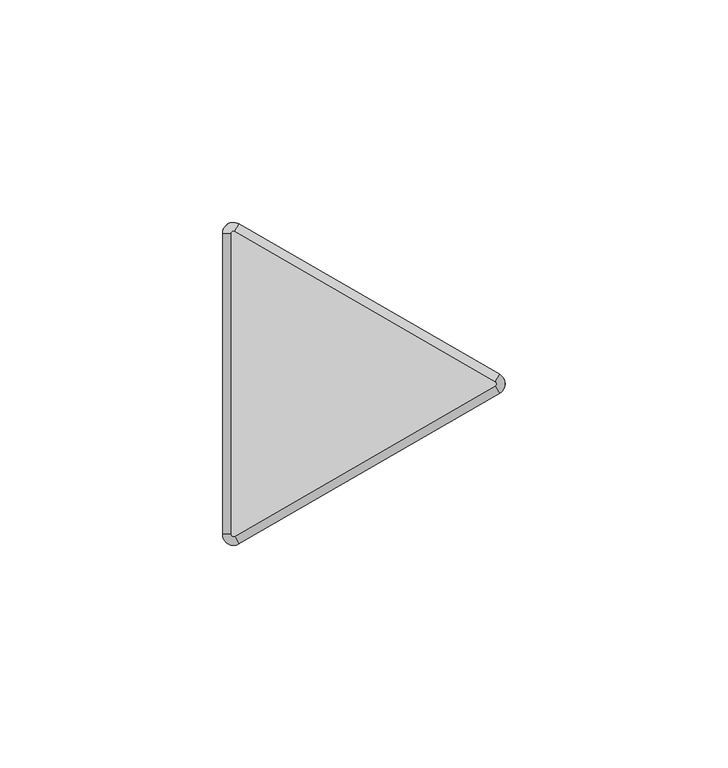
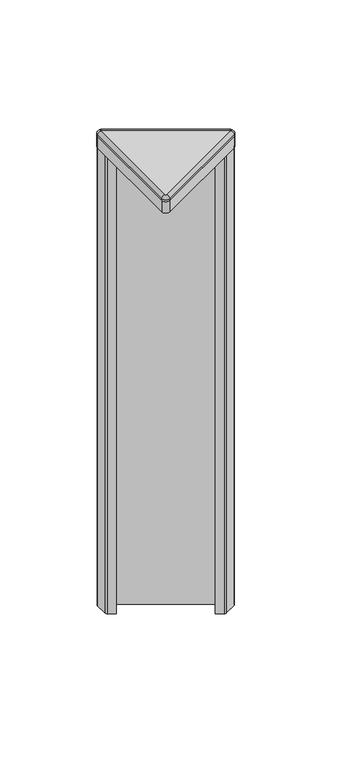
"""IFC4 building model written with IfcOpenShell, lengths in millimetres: furniture geometry, Steelcase - Answer Solution - Panel - 120deg Change-of-Height Trim - Thin : V Corner - 12H for 48H App."""

from ifc_helpers import new_model, si_unit, point, frame, frame_2d, origin, place, context, project, spatial, polyline, circle_curve, ellipse_curve, trimmed, segment, composite_curve, outline, extrude, source, transform, mapped, element, save
from ifc_brep_helpers import plane_surface, cylinder_surface, revolved_surface, advanced_brep


def furniture_720b09e9(model_context):
    return source(origin(), model_context, "Body", "SolidModel", [
        advanced_brep(
        [(-10.518645, -37.3335529, 1223.6628978), (-14.2052101, -35.2051135, 1223.6628978), (-14.2052101, -35.2051135, 1222.7164663), (-10.518645, -37.3335529, 1222.7164663), (-11.46175, -35.7000471, 1225.55), (-12.319, -35.2051135, 1225.55), (-11.46175, -35.7000471, 1222.7164663), (-12.319, -35.2051135, 1222.7164663), (48.0429908, -3.5229767, 1222.7164663), (48.0429908, -3.5229767, 1223.6628978), (47.0998858, -1.8894709, 1225.55), (47.0998858, -1.8894709, 1222.7164663), (48.0429908, 0.733902, 1223.6628978), (48.0429908, 0.733902, 1222.7164663), (47.0998858, -0.8996038, 1225.55), (47.0998858, -0.8996038, 1222.7164663), (-10.518645, 34.5444782, 1222.7164663), (-14.2052101, 32.4160388, 1222.7164663), (-11.46175, 32.9109723, 1222.7164663), (-12.319, 32.4160388, 1222.7164663), (-10.518645, 34.5444782, 1223.6628978), (-11.46175, 32.9109723, 1225.55), (-14.2052101, 32.4160388, 1223.6628978), (-12.319, 32.4160388, 1225.55)],
        [
            (0, 1, circle_curve(frame((-11.7475, -35.2051135, 1223.6628978), z_axis=(0.0, 0.0, -1.0), x_axis=(-1.0, 0.0, 0.0)), 2.4577101)),
            (1, 2),
            (2, 3, circle_curve(frame((-11.7475, -35.2051135, 1222.7164663), z_axis=(0.0, 0.0, 1.0), x_axis=(-1.0, 0.0, 0.0)), 2.4577101)),
            (3, 0),
            (4, 5, circle_curve(frame((-11.7475, -35.2051135, 1225.55), z_axis=(0.0, 0.0, -1.0), x_axis=(-1.0, 0.0, 0.0)), 0.5715)),
            (5, 1, circle_curve(frame((-12.3181076, -35.2051135, 1223.6628978), z_axis=(0.0, -1.0, 0.0), x_axis=(1.0, 0.0, 0.0)), 1.8871024)),
            (0, 4, circle_curve(frame((-11.4621962, -35.6992743, 1223.6628978), z_axis=(-0.8660254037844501, -0.49999999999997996, 0.0), x_axis=(-0.49999999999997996, 0.8660254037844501, 0.0)), 1.8871024)),
            (6, 7, circle_curve(frame((-11.7475, -35.2051135, 1222.7164663), z_axis=(0.0, 0.0, -1.0), x_axis=(-1.0, 0.0, 0.0)), 0.5715)),
            (7, 5),
            (4, 6),
            (3, 8),
            (8, 9),
            (9, 0),
            (9, 10, circle_curve(frame((47.0994396, -1.8886981, 1223.6628978), z_axis=(-0.8660254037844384, -0.5000000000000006, 0.0), x_axis=(-0.5000000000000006, 0.8660254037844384, 0.0)), 1.8871024)),
            (10, 4),
            (10, 11),
            (11, 6),
            (12, 9, circle_curve(frame((46.8141358, -1.3945374, 1223.6628978), z_axis=(0.0, 0.0, -1.0), x_axis=(0.4999999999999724, -0.8660254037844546, 0.0)), 2.4577101)),
            (8, 13, circle_curve(frame((46.8141358, -1.3945374, 1222.7164663), z_axis=(0.0, 0.0, 1.0), x_axis=(0.4999999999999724, -0.8660254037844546, 0.0)), 2.4577101)),
            (13, 12),
            (14, 10, circle_curve(frame((46.8141358, -1.3945374, 1225.55), z_axis=(0.0, 0.0, -1.0), x_axis=(0.4999999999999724, -0.8660254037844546, 0.0)), 0.5715)),
            (12, 14, circle_curve(frame((47.0994396, -0.9003766, 1223.6628978), z_axis=(0.8660254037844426, -0.49999999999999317, 0.0), x_axis=(-0.49999999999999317, -0.8660254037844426, 0.0)), 1.8871024)),
            (15, 11, circle_curve(frame((46.8141358, -1.3945374, 1222.7164663), z_axis=(0.0, 0.0, -1.0), x_axis=(0.4999999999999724, -0.8660254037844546, 0.0)), 0.5715)),
            (14, 15),
            (16, 13),
            (2, 17),
            (17, 16, circle_curve(frame((-11.7475, 32.4160388, 1222.7164663), z_axis=(0.0, 0.0, -1.0), x_axis=(0.500000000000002, 0.8660254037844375, 0.0)), 2.4577101)),
            (15, 18),
            (18, 19, circle_curve(frame((-11.7475, 32.4160388, 1222.7164663), z_axis=(0.0, 0.0, 1.0), x_axis=(0.500000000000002, 0.8660254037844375, 0.0)), 0.5715)),
            (19, 7),
            (16, 20),
            (20, 12),
            (20, 21, circle_curve(frame((-11.4621962, 32.9101995, 1223.6628978), z_axis=(0.8660254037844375, -0.5000000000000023, 0.0), x_axis=(-0.5000000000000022, -0.8660254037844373, 0.0)), 1.8871024)),
            (21, 14),
            (21, 18),
            (22, 20, circle_curve(frame((-11.7475, 32.4160388, 1223.6628978), z_axis=(0.0, 0.0, -1.0), x_axis=(0.500000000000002, 0.8660254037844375, 0.0)), 2.4577101)),
            (17, 22),
            (23, 21, circle_curve(frame((-11.7475, 32.4160388, 1225.55), z_axis=(0.0, 0.0, -1.0), x_axis=(0.500000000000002, 0.8660254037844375, 0.0)), 0.5715)),
            (22, 23, circle_curve(frame((-12.3181076, 32.4160388, 1223.6628978), z_axis=(0.0, 1.0, 0.0), x_axis=(1.0, 0.0, 0.0)), 1.8871024)),
            (23, 19),
            (1, 22),
            (5, 23),
        ],
        [
            cylinder_surface(frame((-11.7475, -35.2051135, 0.0), z_axis=(0.0, 0.0, 1.0), x_axis=(-1.0, 0.0, 0.0)), 2.4577101),
            revolved_surface(trimmed(ellipse_curve(frame((-12.3181076, -35.2051135, 1223.6628978), z_axis=(0.0, 1.0, 0.0), x_axis=(1.0, 0.0, 0.0)), 1.8871024, 1.8871024), [point((-14.2052101, -35.2051135, 1223.6628978))], [point((-12.319, -35.2051135, 1225.55))], True, "CARTESIAN"), (-11.7475, -35.2051135, 0.0), (0.0, 0.0, 1.0)),
            revolved_surface(polyline([(-12.319, -35.2051135, 1225.55), (-12.319, -35.2051135, 1222.7164663)]), (-11.7475, -35.2051135, 0.0), (0.0, 0.0, 1.0)),
            plane_surface(frame((-10.518645, -37.3335529, 1222.7164663), z_axis=(0.500000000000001, -0.8660254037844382, 0.0), x_axis=(0.8660254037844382, 0.500000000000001, 0.0))),
            cylinder_surface(frame((-11.4621962, -35.6992743, 1223.6628978), z_axis=(-0.8660254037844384, -0.5000000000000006, 0.0), x_axis=(-0.5000000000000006, 0.8660254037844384, 0.0)), 1.8871024),
            plane_surface(frame((-11.46175, -35.7000471, 1225.55), z_axis=(-0.500000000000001, 0.8660254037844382, 0.0), x_axis=(0.8660254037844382, 0.500000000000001, 0.0))),
            cylinder_surface(frame((46.8141358, -1.3945374, 0.0), z_axis=(0.0, 0.0, 1.0), x_axis=(0.4999999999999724, -0.8660254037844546, 0.0)), 2.4577101),
            revolved_surface(trimmed(ellipse_curve(frame((47.0994396, -1.8886981, 1223.6628978), z_axis=(-0.8660254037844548, -0.499999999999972, 0.0), x_axis=(-0.499999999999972, 0.8660254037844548, 0.0)), 1.8871024, 1.8871024), [point((48.0429908, -3.5229767, 1223.6628978))], [point((47.0998858, -1.8894709, 1225.55))], True, "CARTESIAN"), (46.8141358, -1.3945374, 0.0), (0.0, 0.0, 1.0)),
            revolved_surface(polyline([(47.09988579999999, -1.8894709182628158, 1225.55), (47.09988579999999, -1.8894709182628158, 1222.7164663)]), (46.8141358, -1.3945374, 0.0), (0.0, 0.0, 1.0)),
            plane_surface(frame((47.0998858, -0.8996038, 1222.7164663), z_axis=(0.0, 0.0, -1.0), x_axis=(-0.866025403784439, 0.49999999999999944, 0.0))),
            plane_surface(frame((48.0429908, 0.733902, 1222.7164663), z_axis=(0.5000000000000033, 0.8660254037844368, 0.0), x_axis=(-0.8660254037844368, 0.5000000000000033, 0.0))),
            cylinder_surface(frame((47.0994396, -0.9003766, 1223.6628978), z_axis=(0.8660254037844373, -0.5000000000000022, 0.0), x_axis=(-0.5000000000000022, -0.8660254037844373, 0.0)), 1.8871024),
            plane_surface(frame((47.0998858, -0.8996038, 1225.55), z_axis=(-0.49999999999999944, -0.866025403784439, 0.0), x_axis=(-0.866025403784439, 0.49999999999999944, 0.0))),
            cylinder_surface(frame((-11.7475, 32.4160388, 0.0), z_axis=(0.0, 0.0, 1.0), x_axis=(0.500000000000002, 0.8660254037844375, 0.0)), 2.4577101),
            revolved_surface(trimmed(ellipse_curve(frame((-11.4621962, 32.9101995, 1223.6628978), z_axis=(0.866025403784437, -0.5000000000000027, 0.0), x_axis=(-0.5000000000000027, -0.866025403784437, 0.0)), 1.8871024, 1.8871024), [point((-10.518645, 34.5444782, 1223.6628978))], [point((-11.46175, 32.9109723, 1225.55))], True, "CARTESIAN"), (-11.7475, 32.4160388, 0.0), (0.0, 0.0, 1.0)),
            revolved_surface(polyline([(-11.461749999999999, 32.91097231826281, 1225.55), (-11.461749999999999, 32.91097231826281, 1222.7164663)]), (-11.7475, 32.4160388, 0.0), (0.0, 0.0, 1.0)),
            plane_surface(frame((-14.2052101, 32.4160388, 1222.7164663), z_axis=(-1.0, 0.0, 0.0), x_axis=(0.0, -1.0, 0.0))),
            cylinder_surface(frame((-12.3181076, 32.4160388, 1223.6628978), z_axis=(0.0, 1.0, 0.0), x_axis=(1.0, 0.0, 0.0)), 1.8871024),
            plane_surface(frame((-12.319, 32.4160388, 1225.55), z_axis=(1.0, 0.0, 0.0), x_axis=(0.0, -1.0, 0.0))),
        ],
        [
            (0, [[1, 2, 3, 4]]),
            (1, [[5, 6, -1, 7]]),
            (2, [[8, 9, -5, 10]]),
            (3, [[-4, 11, 12, 13]]),
            (4, [[-7, -13, 14, 15]]),
            (5, [[-10, -15, 16, 17]]),
            (6, [[18, -12, 19, 20]]),
            (7, [[21, -14, -18, 22]]),
            (8, [[23, -16, -21, 24]]),
            (9, [[25, -19, -11, -3, 26, 27], [-8, -17, -23, 28, 29, 30]]),
            (10, [[-20, -25, 31, 32]]),
            (11, [[-22, -32, 33, 34]]),
            (12, [[-24, -34, 35, -28]]),
            (13, [[36, -31, -27, 37]]),
            (14, [[38, -33, -36, 39]]),
            (15, [[-29, -35, -38, 40]]),
            (16, [[-37, -26, -2, 41]]),
            (17, [[-39, -41, -6, 42]]),
            (18, [[-40, -42, -9, -30]]),
        ],
    ),
        extrude(outline(composite_curve([segment(trimmed(circle_curve(frame_2d((46.8261011, -1.3945374)), 0.5655173), [point((47.1088598, -0.904785))], [point((47.1088598, -1.8842897))], False, "CARTESIAN"), True, "CONTINUOUS"), segment(polyline([(47.1088598, -1.8842897), (-11.4505119, -35.6935587)]), True, "CONTINUOUS"), segment(trimmed(circle_curve(frame_2d((-11.7400079, -35.1921369)), 0.5789921), [point((-11.4505119, -35.6935587))], [point((-12.319, -35.1921369))], False, "CARTESIAN"), True, "CONTINUOUS"), segment(polyline([(-12.319, -35.1921369), (-12.319, 32.3985888)]), True, "CONTINUOUS"), segment(trimmed(circle_curve(frame_2d((-11.7374252, 32.3985888)), 0.5815748), [point((-12.319, 32.3985888))], [point((-11.4466378, 32.9022473))], False, "CARTESIAN"), True, "CONTINUOUS"), segment(polyline([(-11.4466378, 32.9022473), (47.1088598, -0.904785)]), True, "CONTINUOUS")], self_intersect=False)), frame((0.0, 0.0, 1222.7164663), z_axis=(0.0, 0.0, 1.0), x_axis=(1.0, 0.0, 0.0)), (0.0, 0.0, 1.0), 2.8335337),
        extrude(outline(composite_curve([segment(trimmed(circle_curve(frame_2d((47.9608454, -1.3945374)), 1.2935425), [point((48.6076166, -0.2742967))], [point((48.6076166, -2.514778))], False, "CARTESIAN"), True, "CONTINUOUS"), segment(polyline([(48.6076166, -2.514778), (41.722656, -6.4898119)]), True, "CONTINUOUS"), segment(trimmed(circle_curve(frame_2d((41.0991304, -5.4098338)), 1.2470513), [point((41.722656, -6.4898119))], [point((40.4756048, -6.4898119))], False, "CARTESIAN"), True, "CONTINUOUS"), segment(polyline([(40.4756048, -6.4898119), (36.3239304, -4.0928416), (36.7811304, -3.300948), (41.0991304, -5.7939464), (47.3502407, -2.1848662)]), True, "CONTINUOUS"), segment(trimmed(circle_curve(frame_2d((46.8939441, -1.3945374)), 0.9125932), [point((47.3502407, -2.1848662))], [point((47.3502407, -0.6042085))], True, "CARTESIAN"), True, "CONTINUOUS"), segment(polyline([(47.3502407, -0.6042085), (-11.3312768, 33.2755814)]), True, "CONTINUOUS"), segment(trimmed(circle_curve(frame_2d((-11.7875179, 32.4853487)), 0.9124821), [point((-11.3312768, 33.2755814))], [point((-12.7, 32.4853487))], True, "CARTESIAN"), True, "CONTINUOUS"), segment(polyline([(-12.7, 32.4853487), (-12.7, 25.266996), (-8.382, 22.7739975), (-8.8392, 21.9821039), (-12.9583282, 24.3602837)]), True, "CONTINUOUS"), segment(trimmed(circle_curve(frame_2d((-12.3022565, 25.4966333)), 1.3121435), [point((-12.9583282, 24.3602837))], [point((-13.6144, 25.4966333))], False, "CARTESIAN"), True, "CONTINUOUS"), segment(polyline([(-13.6144, 25.4966333), (-13.6144, 33.3957138)]), True, "CONTINUOUS"), segment(trimmed(circle_curve(frame_2d((-12.3131174, 33.3957138)), 1.3012826), [point((-13.6144, 33.3957138))], [point((-11.6624761, 34.5226576))], False, "CARTESIAN"), True, "CONTINUOUS"), segment(polyline([(-11.6624761, 34.5226576), (48.6076166, -0.2742967)]), True, "CONTINUOUS")], self_intersect=False)), frame((0.0, 0.0, 920.75), z_axis=(0.0, 0.0, 1.0), x_axis=(1.0, 0.0, 0.0)), (0.0, 0.0, 1.0), 294.64),
        extrude(outline(composite_curve([segment(trimmed(circle_curve(frame_2d((46.8140443, -1.3945374)), 2.4577558), [point((48.0429222, 0.7339416))], [point((48.0429222, -3.5230163))], False, "CARTESIAN"), True, "CONTINUOUS"), segment(polyline([(48.0429222, -3.5230163), (-10.518058, -37.333214)]), True, "CONTINUOUS"), segment(trimmed(circle_curve(frame_2d((-11.7471087, -35.2044357)), 2.4581014), [point((-10.518058, -37.333214))], [point((-14.2052101, -35.2044357))], False, "CARTESIAN"), True, "CONTINUOUS"), segment(polyline([(-14.2052101, -35.2044357), (-14.2052101, 32.4160388)]), True, "CONTINUOUS"), segment(trimmed(circle_curve(frame_2d((-11.7475, 32.4160388)), 2.4577101), [point((-14.2052101, 32.4160388))], [point((-10.518645, 34.5444782))], False, "CARTESIAN"), True, "CONTINUOUS"), segment(polyline([(-10.518645, 34.5444782), (48.0429222, 0.7339416)]), True, "CONTINUOUS")], self_intersect=False)), frame((0.0, 0.0, 1215.39), z_axis=(0.0, 0.0, 1.0), x_axis=(1.0, 0.0, 0.0)), (0.0, 0.0, 1.0), 7.3264663),
    ])


if __name__ == "__main__":
    model = new_model("IFC4")
    model_context = context("Model", 3, world=origin())
    ifc_project = project(units=[si_unit("LENGTHUNIT", "METRE", prefix="MILLI")], contexts=[model_context])
    site = spatial("IfcSite", under=ifc_project)
    building = spatial("IfcBuilding", under=site)
    placement = place(None, origin())
    furniture_shape = furniture_720b09e9(model_context)
    element("IfcFurniture", 1, ObjectType="Steelcase - Answer Solution - Panel - 120deg Change-of-Height Trim - Thin : V Corner - 12H for 48H App", at=placement, inside=building, context=model_context, shape_type="MappedRepresentation", body=[
        mapped(furniture_shape, transform((0.0, 0.0, 0.0), x_axis=(1.0, 0.0, 0.0), y_axis=(0.0, 1.0, 0.0), z_axis=(0.0, 0.0, 1.0))),
    ])
    save(model, "model.ifc")
